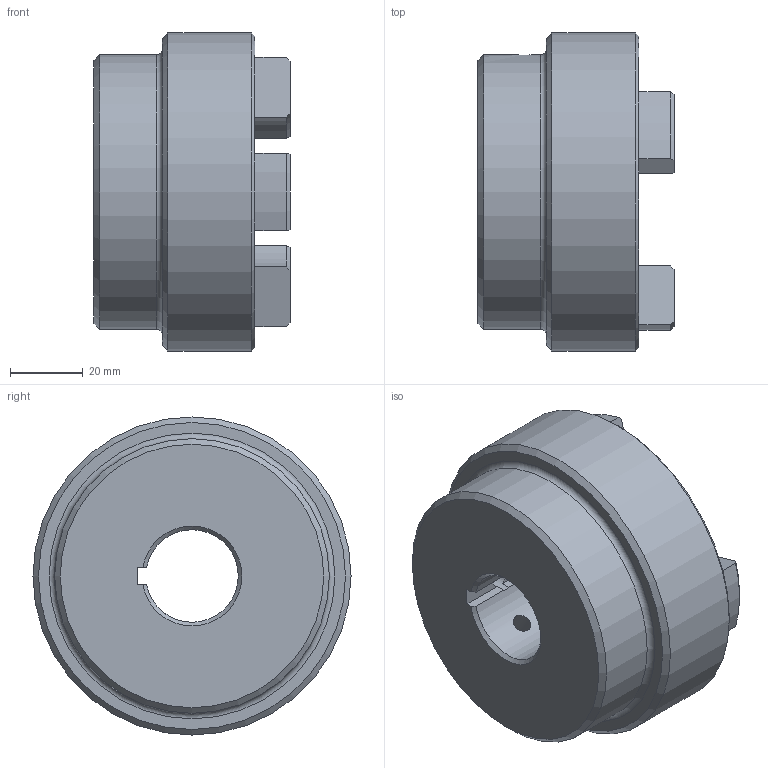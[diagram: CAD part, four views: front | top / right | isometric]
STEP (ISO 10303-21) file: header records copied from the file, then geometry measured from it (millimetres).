
FILE_DESCRIPTION (( 'STEP AP203' ), '1' );
FILE_NAME ('RC3.step', '2024-07-24T12:46:50', ( 'Adlan' ), ( '' ), 'SwSTEP 2.0', 'SolidWorks 2013', '' );
FILE_SCHEMA (( 'CONFIG_CONTROL_DESIGN' ));
Length unit declared in the file: inch
Products named in the file (1): RC3
Bounding box: 53.85 x 87.38 x 87.38 mm (x, y, z)
Volume: 178600.3 mm3; surface area: 30511 mm2
Topology: 1 solids, 1 shells, 70 faces, 180 edges, 113 vertices
Faces by surface type: cylinder 26, plane 19, torus 13, cone 12
Full cylindrical faces by diameter (mm): 5.105 x2, 75.438 x1, 87.376 x1
Entity records: 2365 total; most frequent: CARTESIAN_POINT 601, DIRECTION 370, ORIENTED_EDGE 332, EDGE_CURVE 166, AXIS2_PLACEMENT_3D 146, VERTEX_POINT 109, EDGE_LOOP 87, LINE 78
